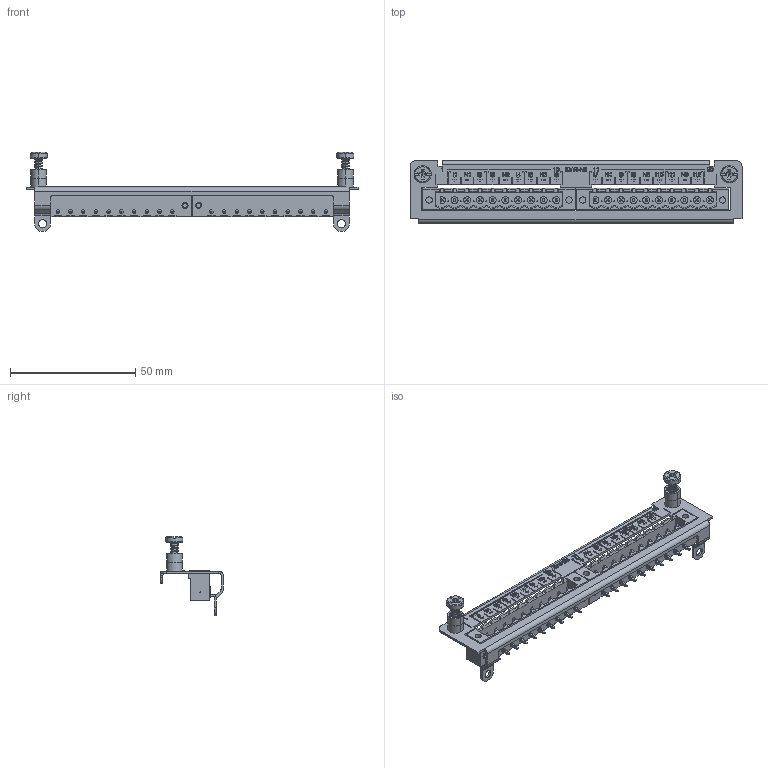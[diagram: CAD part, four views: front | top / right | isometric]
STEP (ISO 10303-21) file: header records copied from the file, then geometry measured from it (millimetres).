
FILE_DESCRIPTION(/* description */ (''),/* implementation_level */ '2;1');
FILE_NAME(/* name */ 'C:\Users\jondi\Desktop\FLEX 3D STP\N5-FLEX.stp',/* time_stamp */ '2021-03-11T08:03:11-06:00',/* author */ ('jondi'),/* organization */ (''),/* preprocessor_version */ 'ST-DEVELOPER v17.2',/* originating_system */ 'Autodesk Inventor 2019',/* authorisation */ '');
FILE_SCHEMA (('AUTOMOTIVE_DESIGN { 1 0 10303 214 3 1 1 }'));
Products named in the file (7): N5-FLEX; 9579230108; 9579200027; 9579200027_1; 44090; 9579200063; 44082
Assembly tree (8 placements, depth 4):
  N5-FLEX
    9579230108
      9579200027
        9579200027_1
      44090  x2
    9579200063
    44082  x2
Bounding box: 132.59 x 25.02 x 31.72 mm (x, y, z)
Volume: 9745.1 mm3; surface area: 16203.1 mm2
Topology: 104 solids, 104 shells, 2883 faces, 6633 edges, 4120 vertices
Faces by surface type: plane 2387, bspline 222, cylinder 176, cone 74, sphere 20, torus 4
Full cylindrical faces by diameter (mm): 0.434 x2, 1.4 x20, 1.8 x4, 2.4 x4, 2.5 x4, 2.8 x18, 3.251 x2, 4.826 x2
Entity records: 60110 total; most frequent: CARTESIAN_POINT 15147, ORIENTED_EDGE 9244, DIRECTION 8157, EDGE_CURVE 4622, LINE 3663, VECTOR 3663, VERTEX_POINT 2933, AXIS2_PLACEMENT_3D 2247
